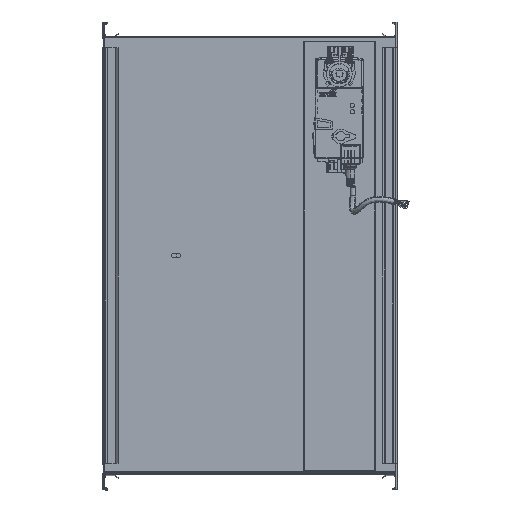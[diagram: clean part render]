
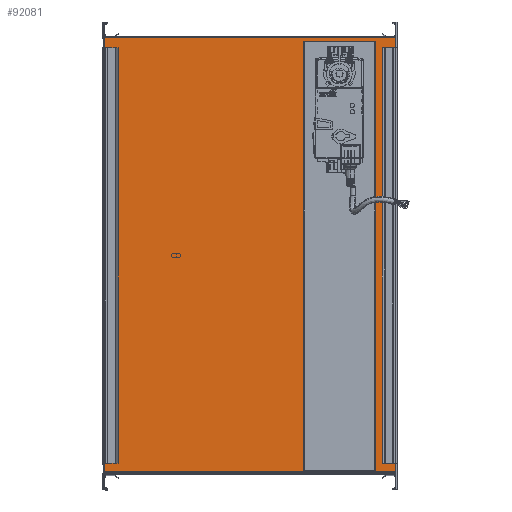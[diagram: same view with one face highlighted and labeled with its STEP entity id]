
A CAD part, top view. The second image highlights one B-rep face of the part: STEP entity #92081.
In plain terms, the highlighted planar face has unit normal (0, 0, 1).
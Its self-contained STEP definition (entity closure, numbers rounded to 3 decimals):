
#2905 = DIRECTION ( 'NONE',  ( 1., 0., 0. ) ) ;
#3374 = LINE ( 'NONE', #68183, #93623 ) ;
#3551 = DIRECTION ( 'NONE',  ( 0., -1., 0. ) ) ;
#4599 = LINE ( 'NONE', #77507, #59665 ) ;
#7088 = DIRECTION ( 'NONE',  ( 0., 0., 1. ) ) ;
#9327 = CARTESIAN_POINT ( 'NONE',  ( 155.577, -283.848, 1500. ) ) ;
#10087 = VECTOR ( 'NONE', #17298, 1000. ) ;
#10882 = VECTOR ( 'NONE', #12026, 1000. ) ;
#11990 = VERTEX_POINT ( 'NONE', #80564 ) ;
#12026 = DIRECTION ( 'NONE',  ( 1., 0., 0. ) ) ;
#12611 = ORIENTED_EDGE ( 'NONE', *, *, #35999, .F. ) ;
#13731 = DIRECTION ( 'NONE',  ( 0., -1., 0. ) ) ;
#17298 = DIRECTION ( 'NONE',  ( 0., -1., 0. ) ) ;
#17408 = VECTOR ( 'NONE', #47764, 1000. ) ;
#20552 = ORIENTED_EDGE ( 'NONE', *, *, #37917, .F. ) ;
#20882 = CARTESIAN_POINT ( 'NONE',  ( -244.423, -283.848, 1500. ) ) ;
#22850 = VERTEX_POINT ( 'NONE', #34090 ) ;
#28052 = FACE_OUTER_BOUND ( 'NONE', #82684, .T. ) ;
#33069 = ORIENTED_EDGE ( 'NONE', *, *, #69386, .T. ) ;
#33329 = CARTESIAN_POINT ( 'NONE',  ( -244.423, -283.848, 1500. ) ) ;
#34090 = CARTESIAN_POINT ( 'NONE',  ( 28.813, -282.641, 1500. ) ) ;
#34677 = DIRECTION ( 'NONE',  ( -1., 0., 0. ) ) ;
#35262 = EDGE_LOOP ( 'NONE', ( #66954, #55159, #12611, #35755 ) ) ;
#35755 = ORIENTED_EDGE ( 'NONE', *, *, #60725, .F. ) ;
#35999 = EDGE_CURVE ( 'NONE', #64101, #38849, #78055, .T. ) ;
#36381 = VECTOR ( 'NONE', #34677, 1000. ) ;
#37917 = EDGE_CURVE ( 'NONE', #67607, #91874, #46406, .T. ) ;
#38849 = VERTEX_POINT ( 'NONE', #89268 ) ;
#38932 = EDGE_CURVE ( 'NONE', #11990, #67607, #62496, .T. ) ;
#42473 = LINE ( 'NONE', #77786, #17408 ) ;
#43276 = CARTESIAN_POINT ( 'NONE',  ( -244.423, -283.848, 1500. ) ) ;
#45320 = CARTESIAN_POINT ( 'NONE',  ( 126.813, 307.359, 1500. ) ) ;
#46406 = LINE ( 'NONE', #9327, #76226 ) ;
#47764 = DIRECTION ( 'NONE',  ( 1., 0., 0. ) ) ;
#47949 = VERTEX_POINT ( 'NONE', #33329 ) ;
#50626 = EDGE_CURVE ( 'NONE', #22850, #71948, #42473, .T. ) ;
#54774 = CARTESIAN_POINT ( 'NONE',  ( 126.813, -282.641, 1500. ) ) ;
#55159 = ORIENTED_EDGE ( 'NONE', *, *, #85544, .F. ) ;
#57818 = LINE ( 'NONE', #89748, #10087 ) ;
#59665 = VECTOR ( 'NONE', #77965, 1000. ) ;
#60725 = EDGE_CURVE ( 'NONE', #71948, #64101, #4599, .T. ) ;
#62496 = LINE ( 'NONE', #77288, #10882 ) ;
#64101 = VERTEX_POINT ( 'NONE', #45320 ) ;
#66954 = ORIENTED_EDGE ( 'NONE', *, *, #50626, .F. ) ;
#67607 = VERTEX_POINT ( 'NONE', #90337 ) ;
#68183 = CARTESIAN_POINT ( 'NONE',  ( -244.423, -283.848, 1500. ) ) ;
#68948 = ORIENTED_EDGE ( 'NONE', *, *, #38932, .F. ) ;
#69386 = EDGE_CURVE ( 'NONE', #47949, #91874, #3374, .T. ) ;
#70826 = VECTOR ( 'NONE', #13731, 1000. ) ;
#70890 = CARTESIAN_POINT ( 'NONE',  ( 126.813, 307.359, 1500. ) ) ;
#70984 = EDGE_CURVE ( 'NONE', #11990, #47949, #78060, .T. ) ;
#71948 = VERTEX_POINT ( 'NONE', #54774 ) ;
#72358 = FACE_BOUND ( 'NONE', #35262, .T. ) ;
#73904 = CARTESIAN_POINT ( 'NONE',  ( 155.577, -283.848, 1500. ) ) ;
#76226 = VECTOR ( 'NONE', #3551, 1000. ) ;
#77288 = CARTESIAN_POINT ( 'NONE',  ( -244.423, 312.152, 1500. ) ) ;
#77507 = CARTESIAN_POINT ( 'NONE',  ( 126.813, -282.641, 1500. ) ) ;
#77786 = CARTESIAN_POINT ( 'NONE',  ( 126.813, -282.641, 1500. ) ) ;
#77965 = DIRECTION ( 'NONE',  ( 0., 1., 0. ) ) ;
#78055 = LINE ( 'NONE', #70890, #36381 ) ;
#78060 = LINE ( 'NONE', #20882, #70826 ) ;
#79527 = PLANE ( 'NONE',  #91343 ) ;
#80564 = CARTESIAN_POINT ( 'NONE',  ( -244.423, 312.152, 1500. ) ) ;
#82684 = EDGE_LOOP ( 'NONE', ( #20552, #68948, #87538, #33069 ) ) ;
#85544 = EDGE_CURVE ( 'NONE', #38849, #22850, #57818, .T. ) ;
#85784 = DIRECTION ( 'NONE',  ( 1., 0., 0. ) ) ;
#87538 = ORIENTED_EDGE ( 'NONE', *, *, #70984, .T. ) ;
#89268 = CARTESIAN_POINT ( 'NONE',  ( 28.813, 307.359, 1500. ) ) ;
#89748 = CARTESIAN_POINT ( 'NONE',  ( 28.813, -282.641, 1500. ) ) ;
#90337 = CARTESIAN_POINT ( 'NONE',  ( 155.577, 312.152, 1500. ) ) ;
#91343 = AXIS2_PLACEMENT_3D ( 'NONE', #43276, #7088, #85784 ) ;
#91874 = VERTEX_POINT ( 'NONE', #73904 ) ;
#92081 = ADVANCED_FACE ( 'NONE', ( #72358, #28052 ), #79527, .T. ) ;
#93623 = VECTOR ( 'NONE', #2905, 1000. ) ;
